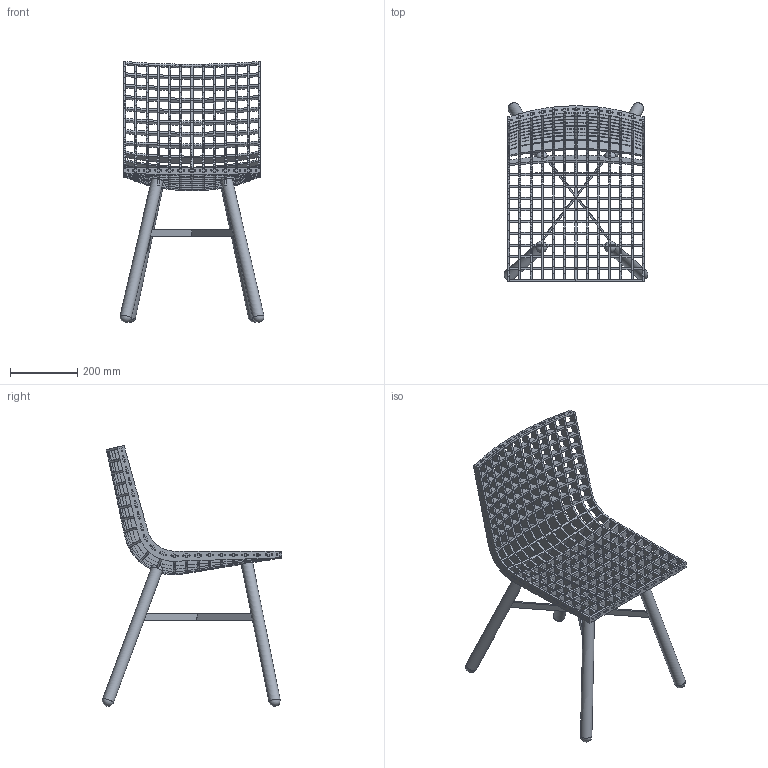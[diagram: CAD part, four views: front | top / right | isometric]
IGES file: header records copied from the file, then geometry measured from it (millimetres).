
Start section: Data from Parasolid IGES Translator 17.0.49, Copyright(c) 2006 Siemens P LM Software. All Rights Reserved.
Global section: file name: Dirk.igs; native system: By Siemens PLM Incorporated; preprocessor: XPlus GENERIC/IGES 17.0.49; author: Noname; organization: Noname; date: 20170604.142207; units: metre
Bounding box: 428.88 x 534.08 x 777.67 mm (x, y, z)
Volume: 4709649.7 mm3; surface area: 1635729.2 mm2
Topology: 40 solids, 40 shells, 8591 faces, 25533 edges, 17022 vertices
Faces by surface type: plane 8491, cylinder 84, sphere 12, bspline 4
Full cylindrical faces by diameter (mm): 4 x80, 34 x4
